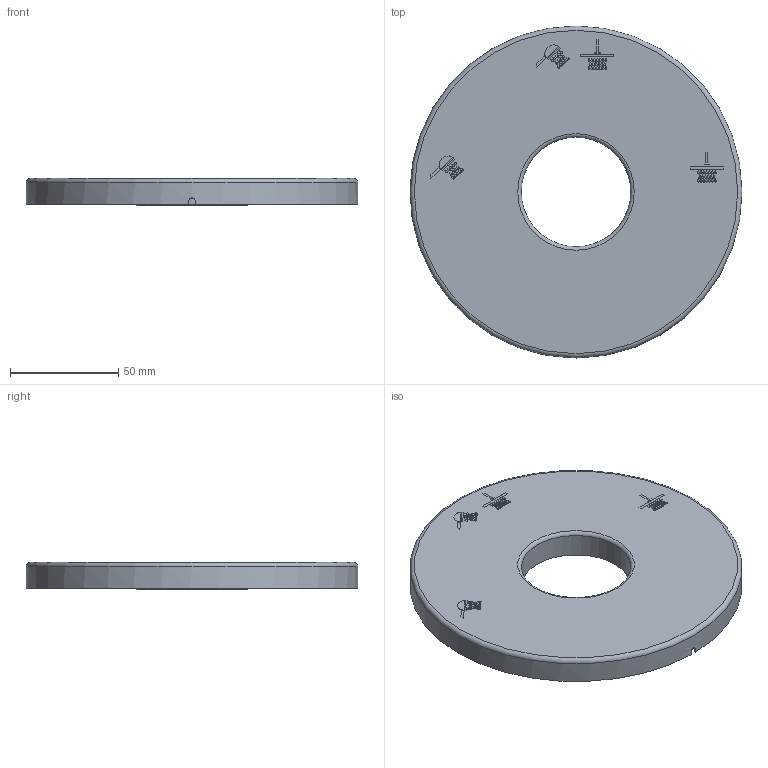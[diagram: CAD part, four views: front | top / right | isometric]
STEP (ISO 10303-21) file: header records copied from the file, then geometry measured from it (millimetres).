
FILE_DESCRIPTION(/* description */ (''),/* implementation_level */ '2;1');
FILE_NAME(/* name */ 'X:\Utilisateurs\Simon\PLTM123 3D.stp',/* time_stamp */ '2018-02-05T11:19:10-05:00',/* author */ ('simonb'),/* organization */ (''),/* preprocessor_version */ 'ST-DEVELOPER v17',/* originating_system */ 'Autodesk Inventor 2018',/* authorisation */ '');
FILE_SCHEMA (('AUTOMOTIVE_DESIGN { 1 0 10303 214 3 1 1 }'));
Length unit declared in the file: millimetre
Products named in the file (2): PLTM123; 050-601
Assembly tree (1 placements, depth 2):
  PLTM123
    050-601
Bounding box: 153 x 153 x 12.5 mm (x, y, z)
Volume: 23081.2 mm3; surface area: 46807 mm2
Topology: 1 solids, 1 shells, 566 faces, 1447 edges, 964 vertices
Faces by surface type: bspline 356, plane 200, cylinder 5, torus 4, cone 1
Full cylindrical faces by diameter (mm): 50.5 x1, 52.5 x1, 151 x1, 153 x1
Entity records: 19026 total; most frequent: CARTESIAN_POINT 7659, ORIENTED_EDGE 2894, EDGE_CURVE 1447, DIRECTION 1179, VERTEX_POINT 964, B_SPLINE_CURVE_WITH_KNOTS 715, LINE 711, VECTOR 711
